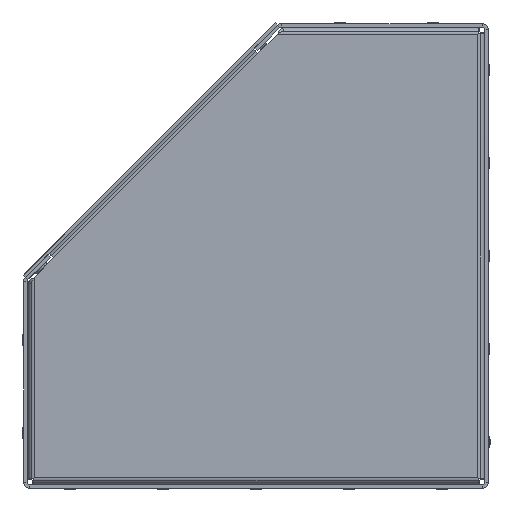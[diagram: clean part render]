
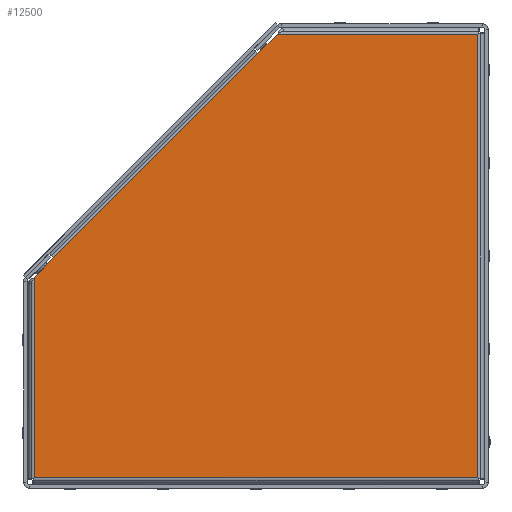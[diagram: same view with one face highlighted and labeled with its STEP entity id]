
A CAD part, left-side view. The second image highlights one B-rep face of the part: STEP entity #12500.
In plain terms, the highlighted planar face has unit normal (-1, 0, 0) as drawn and (1, 0, 0) by its records, which use the part's own axes.
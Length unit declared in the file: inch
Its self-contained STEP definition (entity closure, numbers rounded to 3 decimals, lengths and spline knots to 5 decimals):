
#284 = CARTESIAN_POINT ( 'NONE',  ( 0., 0., 0. ) ) ;
#293 = CARTESIAN_POINT ( 'NONE',  ( 0., 9.552, -5.234 ) ) ;
#715 = EDGE_CURVE ( 'NONE', #6461, #8062, #9272, .T. ) ;
#772 = CARTESIAN_POINT ( 'NONE',  ( 0., 9.552, -5.234 ) ) ;
#877 = VERTEX_POINT ( 'NONE', #9950 ) ;
#1067 = EDGE_CURVE ( 'NONE', #5517, #10904, #11565, .T. ) ;
#1381 = CARTESIAN_POINT ( 'NONE',  ( 0., 9.13092, -4.81292 ) ) ;
#1605 = VECTOR ( 'NONE', #15446, 39.37008 ) ;
#1615 = EDGE_CURVE ( 'NONE', #10904, #6461, #5399, .T. ) ;
#2000 = EDGE_CURVE ( 'NONE', #877, #8420, #3274, .T. ) ;
#2038 = CARTESIAN_POINT ( 'NONE',  ( 0., 9.552, -5.234 ) ) ;
#2068 = DIRECTION ( 'NONE',  ( 0., 0., -1. ) ) ;
#2279 = CARTESIAN_POINT ( 'NONE',  ( 0., 4.318, 0. ) ) ;
#2722 = PLANE ( 'NONE',  #12180 ) ;
#2737 = VECTOR ( 'NONE', #9650, 39.37008 ) ;
#3125 = EDGE_CURVE ( 'NONE', #8062, #13939, #4584, .T. ) ;
#3274 = LINE ( 'NONE', #14208, #9422 ) ;
#4180 = DIRECTION ( 'NONE',  ( 0., -0.707, 0.707 ) ) ;
#4202 = VECTOR ( 'NONE', #2068, 39.37008 ) ;
#4584 = LINE ( 'NONE', #15520, #4202 ) ;
#4690 = EDGE_CURVE ( 'NONE', #13939, #877, #11417, .T. ) ;
#5197 = CARTESIAN_POINT ( 'NONE',  ( 0., 0., 0. ) ) ;
#5399 = LINE ( 'NONE', #2038, #14013 ) ;
#5517 = VERTEX_POINT ( 'NONE', #14543 ) ;
#5650 = ORIENTED_EDGE ( 'NONE', *, *, #1067, .T. ) ;
#5775 = VECTOR ( 'NONE', #11374, 39.37008 ) ;
#5803 = VECTOR ( 'NONE', #4180, 39.37008 ) ;
#6421 = DIRECTION ( 'NONE',  ( 1., 0., 0. ) ) ;
#6461 = VERTEX_POINT ( 'NONE', #7918 ) ;
#7918 = CARTESIAN_POINT ( 'NONE',  ( 0., 4.318, 0. ) ) ;
#8062 = VERTEX_POINT ( 'NONE', #284 ) ;
#8396 = ORIENTED_EDGE ( 'NONE', *, *, #8788, .T. ) ;
#8420 = VERTEX_POINT ( 'NONE', #772 ) ;
#8663 = LINE ( 'NONE', #293, #5775 ) ;
#8788 = EDGE_CURVE ( 'NONE', #8420, #5517, #8663, .T. ) ;
#9272 = LINE ( 'NONE', #2279, #2737 ) ;
#9297 = DIRECTION ( 'NONE',  ( 0., 0., 1. ) ) ;
#9302 = ORIENTED_EDGE ( 'NONE', *, *, #3125, .T. ) ;
#9422 = VECTOR ( 'NONE', #9297, 39.37008 ) ;
#9650 = DIRECTION ( 'NONE',  ( 0., -1., 0. ) ) ;
#9950 = CARTESIAN_POINT ( 'NONE',  ( 0., 9.552, -9.552 ) ) ;
#10110 = CARTESIAN_POINT ( 'NONE',  ( 0., 4.73908, -0.42108 ) ) ;
#10590 = DIRECTION ( 'NONE',  ( 0., -0.707, 0.707 ) ) ;
#10863 = FACE_OUTER_BOUND ( 'NONE', #11143, .T. ) ;
#10904 = VERTEX_POINT ( 'NONE', #10110 ) ;
#11143 = EDGE_LOOP ( 'NONE', ( #14060, #9302, #14681, #15665, #8396, #5650, #13044 ) ) ;
#11374 = DIRECTION ( 'NONE',  ( 0., -0.707, 0.707 ) ) ;
#11417 = LINE ( 'NONE', #12997, #1605 ) ;
#11565 = LINE ( 'NONE', #1381, #5803 ) ;
#12180 = AXIS2_PLACEMENT_3D ( 'NONE', #5197, #6421, #14991 ) ;
#12500 = ADVANCED_FACE ( 'NONE', ( #10863 ), #2722, .T. ) ;
#12997 = CARTESIAN_POINT ( 'NONE',  ( 0., 0., -9.552 ) ) ;
#13044 = ORIENTED_EDGE ( 'NONE', *, *, #1615, .T. ) ;
#13931 = CARTESIAN_POINT ( 'NONE',  ( 0., 0., -9.552 ) ) ;
#13939 = VERTEX_POINT ( 'NONE', #13931 ) ;
#14013 = VECTOR ( 'NONE', #10590, 39.37008 ) ;
#14060 = ORIENTED_EDGE ( 'NONE', *, *, #715, .T. ) ;
#14208 = CARTESIAN_POINT ( 'NONE',  ( 0., 9.552, -9.552 ) ) ;
#14543 = CARTESIAN_POINT ( 'NONE',  ( 0., 9.13092, -4.81292 ) ) ;
#14681 = ORIENTED_EDGE ( 'NONE', *, *, #4690, .T. ) ;
#14991 = DIRECTION ( 'NONE',  ( 0., 0., -1. ) ) ;
#15446 = DIRECTION ( 'NONE',  ( 0., 1., 0. ) ) ;
#15520 = CARTESIAN_POINT ( 'NONE',  ( 0., 0., 0. ) ) ;
#15665 = ORIENTED_EDGE ( 'NONE', *, *, #2000, .T. ) ;
